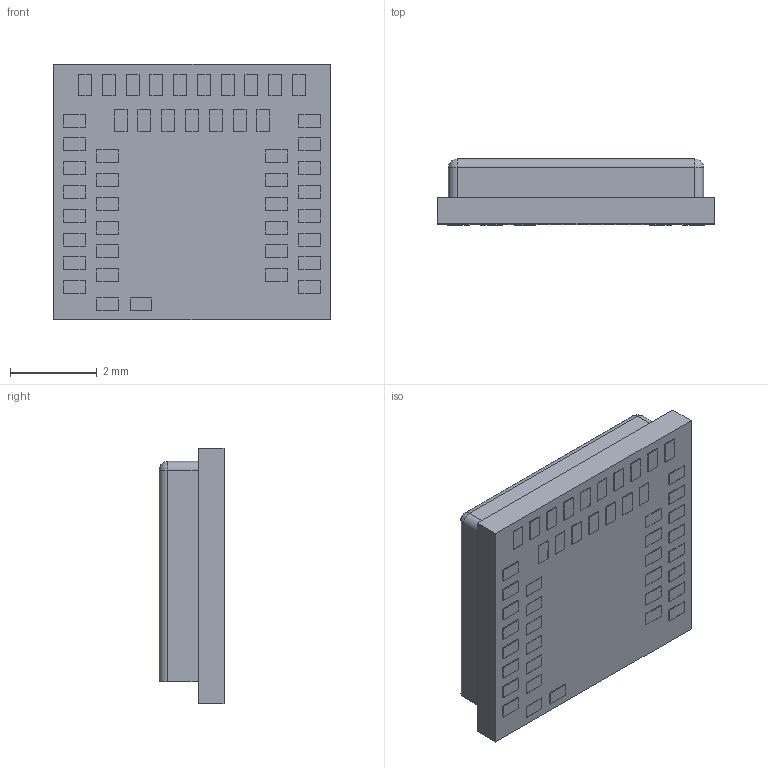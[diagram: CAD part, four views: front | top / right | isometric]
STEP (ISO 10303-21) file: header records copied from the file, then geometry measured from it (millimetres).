
FILE_DESCRIPTION((''),'2;1');
FILE_NAME('01-04-AN54LV-K15_ASM','2025-11-18T21:47:54',('curt_Chen'),(''),'CREO PARAMETRIC BY PTC INC, 2024063','CREO PARAMETRIC BY PTC INC, 2024063','');
FILE_SCHEMA(('AUTOMOTIVE_DESIGN { 1 0 10303 214 1 1 1 1 }'));
Length unit declared in the file: millimetre
Products named in the file (3): 02-04-PCB-AN54LV-K15; 02-EMI-SHEILDING; 01-04-AN54LV-K15_ASM
Assembly tree (2 placements, depth 2):
  01-04-AN54LV-K15_ASM
    02-04-PCB-AN54LV-K15
    02-EMI-SHEILDING
Bounding box: 6.4 x 1.52 x 5.9 mm (x, y, z)
Volume: 31 mm3; surface area: 178.8 mm2
Topology: 2 solids, 2 shells, 265 faces, 818 edges, 792 vertices
Faces by surface type: plane 255, cylinder 7, sphere 3
Entity records: 11788 total; most frequent: CARTESIAN_POINT 1555, DIRECTION 1445, ORIENTED_EDGE 1260, PRESENTATION_STYLE_ASSIGNMENT 816, VECTOR 804, LINE 804, STYLED_ITEM 769, CURVE_STYLE 768
